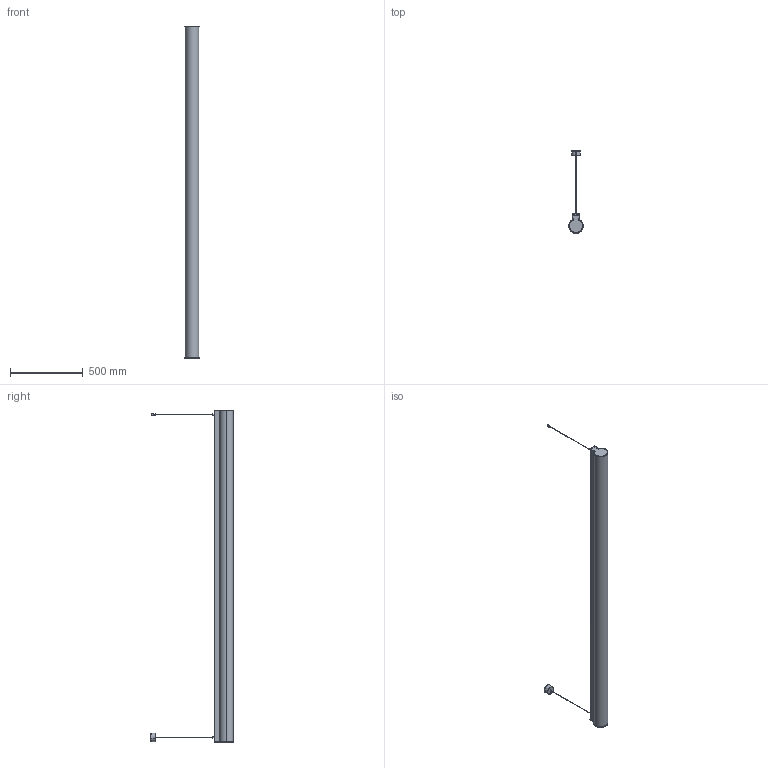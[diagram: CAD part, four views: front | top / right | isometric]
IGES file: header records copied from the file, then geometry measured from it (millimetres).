
Start section: SolidWorks IGES file using analytic representation for surfaces
Global section: file name: C:\Users\JoãoSantos\Desktop\02_3D.2D\01_2020\02_Linear\01_O975\02_Suspensa\O975_SUSP_2287.IGS; native system: SolidWorks 2020; preprocessor: SolidWorks 2020; author: JoãoSantos; date: 201021.110458; units: millimetre
Bounding box: 97.5 x 570.21 x 2287 mm (x, y, z)
Surface area: 1935475.5 mm2 (no closed solid volume)
Topology: 0 solids, 0 shells, 611 faces, 7338 edges, 7322 vertices
Faces by surface type: bspline 323, revolution 288
